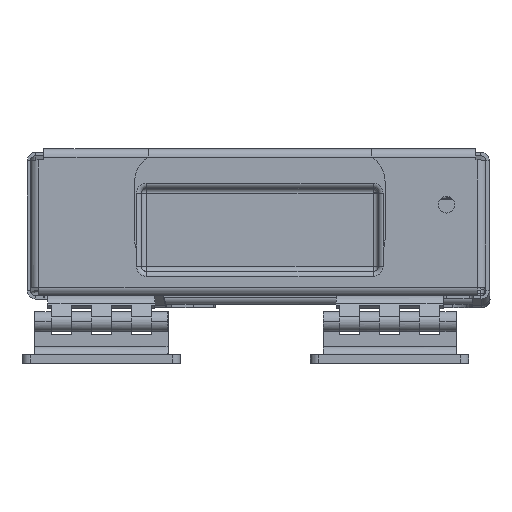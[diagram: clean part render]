
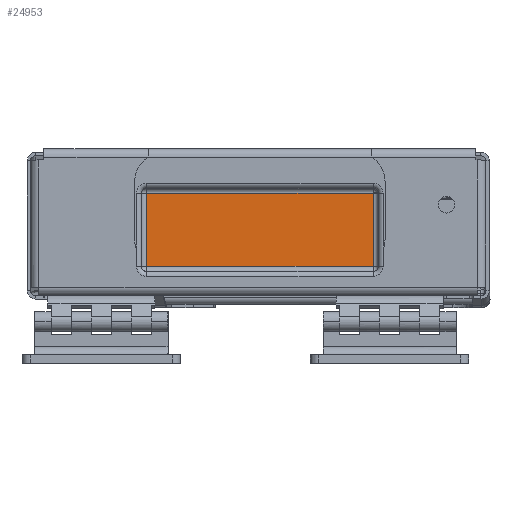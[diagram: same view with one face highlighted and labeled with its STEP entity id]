
A CAD part, left-side view. The second image highlights one B-rep face of the part: STEP entity #24953.
In plain terms, the highlighted planar face has unit normal (-1, 0.001, 0).
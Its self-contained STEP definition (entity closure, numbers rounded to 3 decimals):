
#24917=AXIS2_PLACEMENT_3D('Plane Axis2P3D',#24914,#24915,#24916) ;
#24914=CARTESIAN_POINT('Axis2P3D Location',(-473.,-16.623,0.)) ;
#24919=CARTESIAN_POINT('Line Origine',(-473.,-737.623,103.)) ;
#24923=CARTESIAN_POINT('Vertex',(-473.,-669.623,103.)) ;
#24925=CARTESIAN_POINT('Vertex',(-473.,-805.623,103.)) ;
#24928=CARTESIAN_POINT('Line Origine',(-473.,-669.623,81.)) ;
#24932=CARTESIAN_POINT('Vertex',(-473.,-669.623,59.)) ;
#24935=CARTESIAN_POINT('Line Origine',(-473.,-737.623,59.)) ;
#24939=CARTESIAN_POINT('Vertex',(-473.,-805.623,59.)) ;
#24942=CARTESIAN_POINT('Line Origine',(-473.,-805.623,81.)) ;
#24915=DIRECTION('Axis2P3D Direction',(1.,0.,0.)) ;
#24916=DIRECTION('Axis2P3D XDirection',(0.,1.,0.)) ;
#24920=DIRECTION('Vector Direction',(0.,-1.,0.)) ;
#24929=DIRECTION('Vector Direction',(0.,0.,1.)) ;
#24936=DIRECTION('Vector Direction',(0.,-1.,0.)) ;
#24943=DIRECTION('Vector Direction',(0.,0.,-1.)) ;
#24921=VECTOR('Line Direction',#24920,1.) ;
#24930=VECTOR('Line Direction',#24929,1.) ;
#24937=VECTOR('Line Direction',#24936,1.) ;
#24944=VECTOR('Line Direction',#24943,1.) ;
#24948=ORIENTED_EDGE('',*,*,#24927,.F.) ;
#24949=ORIENTED_EDGE('',*,*,#24934,.F.) ;
#24950=ORIENTED_EDGE('',*,*,#24941,.T.) ;
#24951=ORIENTED_EDGE('',*,*,#24946,.F.) ;
#24953=ADVANCED_FACE('H4A\X2\53477EA76A21575753165E955EA7603B6210\X0\.1\\H4A\X2\53477EA75E955EA76A2157575316603B6210\X0\.1\\Product1.2\\H4681010001A0.1\\\X2\5EA769055E9590E85B8988C5652F5EA7\X0\\\\X2\524D677F\X0\\\\X2\51E04F554F53\X0\.8',(#24952),#24918,.F.) ;
#24927=EDGE_CURVE('',#24924,#24926,#24922,.T.) ;
#24934=EDGE_CURVE('',#24933,#24924,#24931,.T.) ;
#24941=EDGE_CURVE('',#24933,#24940,#24938,.T.) ;
#24946=EDGE_CURVE('',#24926,#24940,#24945,.T.) ;
#24947=EDGE_LOOP('',(#24948,#24949,#24950,#24951)) ;
#24952=FACE_OUTER_BOUND('',#24947,.T.) ;
#24922=LINE('Line',#24919,#24921) ;
#24931=LINE('Line',#24928,#24930) ;
#24938=LINE('Line',#24935,#24937) ;
#24945=LINE('Line',#24942,#24944) ;
#24918=PLANE('Plane',#24917) ;
#24924=VERTEX_POINT('',#24923) ;
#24926=VERTEX_POINT('',#24925) ;
#24933=VERTEX_POINT('',#24932) ;
#24940=VERTEX_POINT('',#24939) ;
